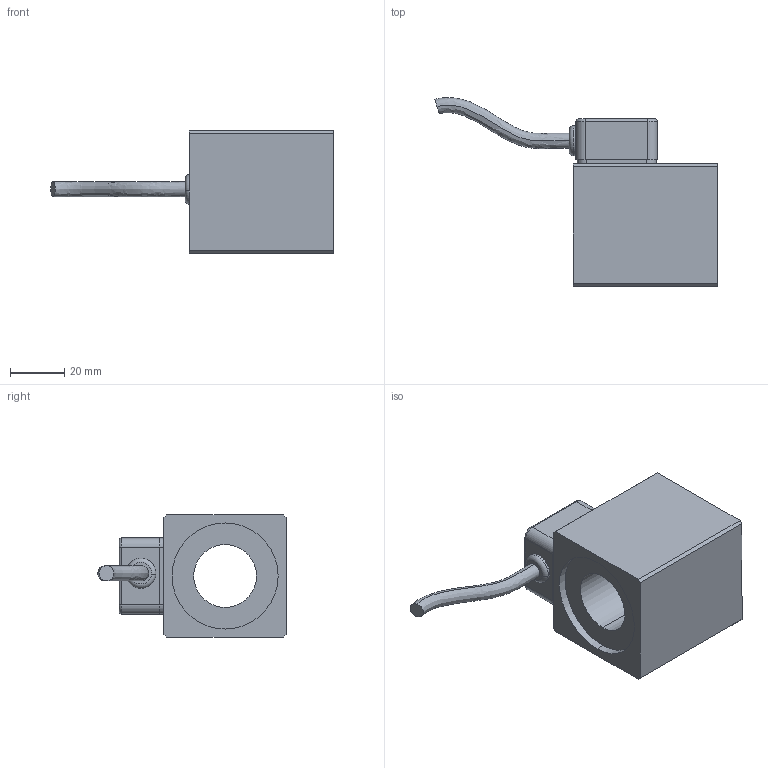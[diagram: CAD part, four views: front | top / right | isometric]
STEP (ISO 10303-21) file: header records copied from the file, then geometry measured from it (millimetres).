
FILE_DESCRIPTION (( 'STEP AP214' ), '1' );
FILE_NAME ('MKS45_23x50.STEP', '2015-07-16T13:56:41', ( '' ), ( '' ), 'SwSTEP 2.0', 'SolidWorks 2014', '' );
FILE_SCHEMA (( 'AUTOMOTIVE_DESIGN' ));
Length unit declared in the file: millimetre
Products named in the file (2): MKS45_23x50
Bounding box: 103.91 x 69.34 x 45 mm (x, y, z)
Volume: 95373.5 mm3; surface area: 22952.3 mm2
Topology: 3 solids, 4 shells, 207 faces, 525 edges, 332 vertices
Faces by surface type: plane 99, cylinder 75, torus 20, cone 6, sphere 5, bspline 2
Entity records: 8719 total; most frequent: CARTESIAN_POINT 1393, DIRECTION 1133, ORIENTED_EDGE 1040, EDGE_CURVE 520, AXIS2_PLACEMENT_3D 430, VERTEX_POINT 332, VECTOR 273, LINE 273
